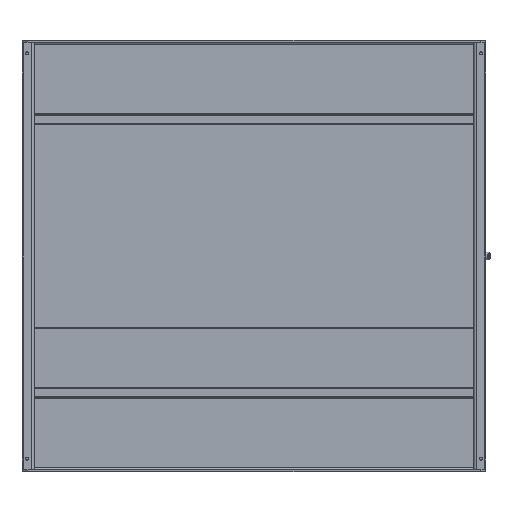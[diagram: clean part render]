
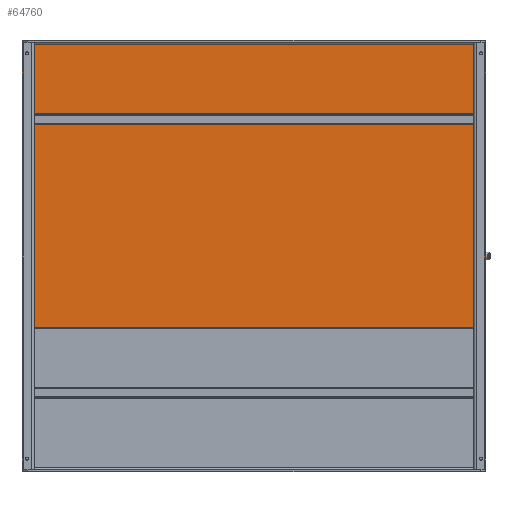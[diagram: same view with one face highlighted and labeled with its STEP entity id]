
A CAD part, front view. The second image highlights one B-rep face of the part: STEP entity #64760.
In plain terms, the highlighted planar face has unit normal (0, -1, 0).
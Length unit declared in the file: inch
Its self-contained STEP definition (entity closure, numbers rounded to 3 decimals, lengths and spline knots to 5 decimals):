
#2827 = EDGE_CURVE ( 'NONE', #35547, #47914, #60335, .T. ) ;
#3832 = EDGE_CURVE ( 'NONE', #48074, #35547, #63603, .T. ) ;
#8765 = CARTESIAN_POINT ( 'NONE',  ( -45.59172, -3.42689, 25.54251 ) ) ;
#14307 = ORIENTED_EDGE ( 'NONE', *, *, #3832, .F. ) ;
#18925 = VECTOR ( 'NONE', #46520, 39.37008 ) ;
#19226 = DIRECTION ( 'NONE',  ( 0., 0., -1. ) ) ;
#20164 = ORIENTED_EDGE ( 'NONE', *, *, #93994, .F. ) ;
#22468 = ORIENTED_EDGE ( 'NONE', *, *, #2827, .F. ) ;
#23771 = CARTESIAN_POINT ( 'NONE',  ( 38.40828, -3.42689, 26.38631 ) ) ;
#26243 = VECTOR ( 'NONE', #31296, 39.37008 ) ;
#27586 = CARTESIAN_POINT ( 'NONE',  ( -45.59172, -3.42689, 26.38631 ) ) ;
#29494 = DIRECTION ( 'NONE',  ( 0., 0., 1. ) ) ;
#31296 = DIRECTION ( 'NONE',  ( 0., 0., -1. ) ) ;
#33942 = PLANE ( 'NONE',  #78630 ) ;
#35547 = VERTEX_POINT ( 'NONE', #91107 ) ;
#38693 = LINE ( 'NONE', #75740, #18925 ) ;
#43639 = EDGE_LOOP ( 'NONE', ( #93541, #20164, #22468, #14307 ) ) ;
#43985 = VECTOR ( 'NONE', #58633, 39.37008 ) ;
#45936 = LINE ( 'NONE', #23771, #26243 ) ;
#46520 = DIRECTION ( 'NONE',  ( 1., 0., 0. ) ) ;
#47857 = CARTESIAN_POINT ( 'NONE',  ( 38.40828, -3.42689, -25.61369 ) ) ;
#47914 = VERTEX_POINT ( 'NONE', #8765 ) ;
#48074 = VERTEX_POINT ( 'NONE', #47857 ) ;
#56232 = CARTESIAN_POINT ( 'NONE',  ( -45.59172, -3.42689, -25.61369 ) ) ;
#58106 = FACE_OUTER_BOUND ( 'NONE', #43639, .T. ) ;
#58633 = DIRECTION ( 'NONE',  ( -1., 0., 0. ) ) ;
#60335 = LINE ( 'NONE', #27586, #79699 ) ;
#63597 = DIRECTION ( 'NONE',  ( 0., -1., 0. ) ) ;
#63603 = LINE ( 'NONE', #66331, #43985 ) ;
#64760 = ADVANCED_FACE ( 'NONE', ( #58106 ), #33942, .T. ) ;
#66331 = CARTESIAN_POINT ( 'NONE',  ( -45.59172, -3.42689, -25.61369 ) ) ;
#71280 = CARTESIAN_POINT ( 'NONE',  ( 38.40828, -3.42689, 25.54251 ) ) ;
#75740 = CARTESIAN_POINT ( 'NONE',  ( -45.59172, -3.42689, 25.54251 ) ) ;
#78630 = AXIS2_PLACEMENT_3D ( 'NONE', #56232, #63597, #19226 ) ;
#79699 = VECTOR ( 'NONE', #29494, 39.37008 ) ;
#87186 = EDGE_CURVE ( 'NONE', #89658, #48074, #45936, .T. ) ;
#89658 = VERTEX_POINT ( 'NONE', #71280 ) ;
#91107 = CARTESIAN_POINT ( 'NONE',  ( -45.59172, -3.42689, -25.61369 ) ) ;
#93541 = ORIENTED_EDGE ( 'NONE', *, *, #87186, .F. ) ;
#93994 = EDGE_CURVE ( 'NONE', #47914, #89658, #38693, .T. ) ;
